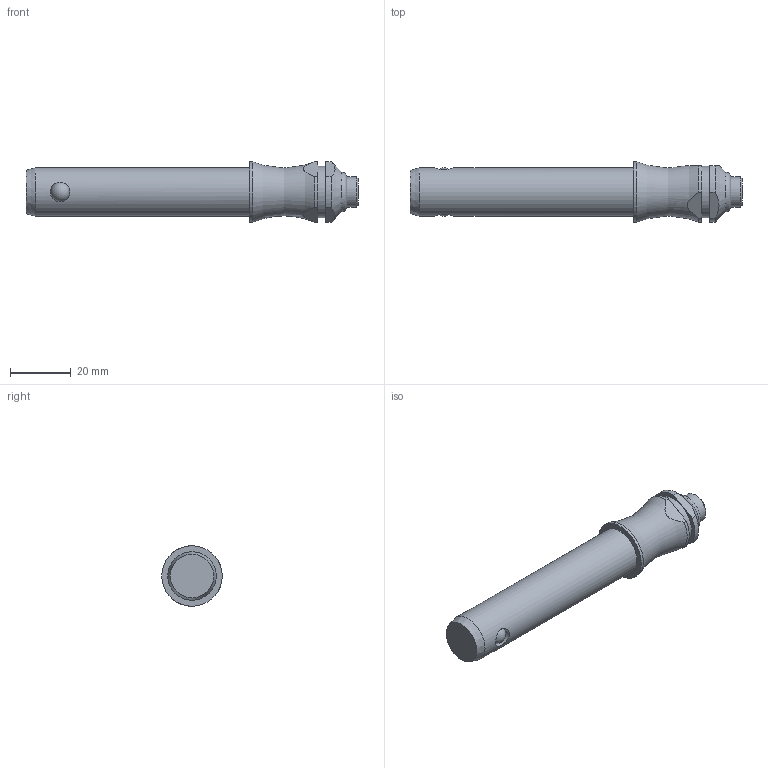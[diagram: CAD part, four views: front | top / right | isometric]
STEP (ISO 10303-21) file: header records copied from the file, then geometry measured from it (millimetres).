
FILE_DESCRIPTION( ( 'STEP AP203' ), '1' );
FILE_NAME( 'C:/Temp/Ganter_Step_05_03_2020/data/3_1/gn113_3/Stainless Steel-Ball lock pin GN 113.3-16-60 (activated).stp', '2020-03-12T08:18:55', ( 'License CC BY-ND 4.0' ), ( 'CADENAS' ), ' ', 'PARTsolutions', ' ' );
FILE_SCHEMA( ( 'CONFIG_CONTROL_DESIGN' ) );
Length unit declared in the file: millimetre
Products named in the file (1): _Stainless Steel-Ball lock pin GN 113.3-16-60 (activated)
Bounding box: 109.75 x 20 x 20 mm (x, y, z)
Volume: 22427.1 mm3; surface area: 6326.4 mm2
Topology: 1 solids, 1 shells, 30 faces, 68 edges, 43 vertices
Faces by surface type: cylinder 12, plane 11, cone 3, torus 2, sphere 2
Full cylindrical faces by diameter (mm): 6.5 x2, 10 x1, 16 x1, 17 x1, 20 x1
Entity records: 1014 total; most frequent: CARTESIAN_POINT 364, DIRECTION 130, ORIENTED_EDGE 102, AXIS2_PLACEMENT_3D 56, EDGE_CURVE 51, EDGE_LOOP 46, VERTEX_POINT 40, FACE_OUTER_BOUND 38
